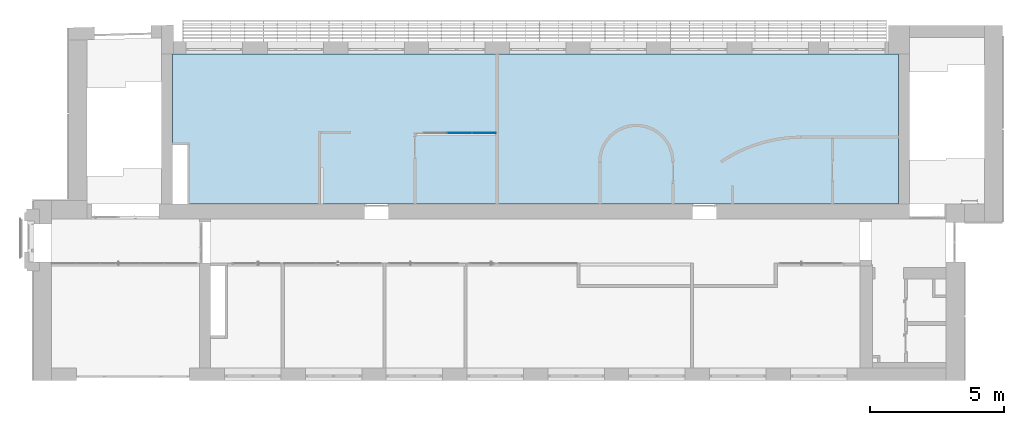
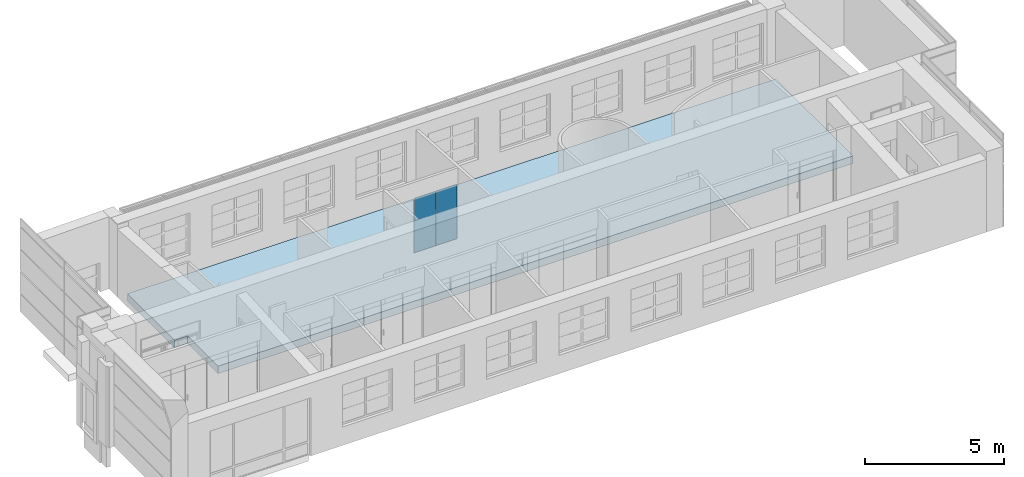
# One storey, part 17 of 46: 2 plates, 1 slab, 1 element without a shape of its own.
"""IFC2X3 building model written with IfcOpenShell, lengths in millimetres."""

from ifc_helpers import new_model, entity, si_unit, converted_unit, derived_unit, direction, frame, origin, origin_2d_with_axis, place, context, subcontext, project, spatial, polyline, rectangle, outline, extrude, source, transform, mapped, material, layer, layer_set, layer_usage, type_object, type_shapes, element, aggregate, save


model = new_model("IFC2X3")

# Units and contexts
model_context = context("Model", 3, precision=0.01, world=origin(), true_north=direction((6.12303176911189e-17, 1.0)))
body_context = subcontext(model_context, "Body", "Model", "MODEL_VIEW")
ifc_project = project(units=[si_unit("LENGTHUNIT", "METRE", prefix="MILLI"), si_unit("AREAUNIT", "SQUARE_METRE"), si_unit("VOLUMEUNIT", "CUBIC_METRE"), converted_unit("PLANEANGLEUNIT", "DEGREE", entity("IfcRatioMeasure", 0.0174532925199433), si_unit("PLANEANGLEUNIT", "RADIAN"), dimensions=[0, 0, 0, 0, 0, 0, 0]), si_unit("MASSUNIT", "GRAM", prefix="KILO"), derived_unit("MASSDENSITYUNIT", [(si_unit("MASSUNIT", "GRAM", prefix="KILO"), 1), (si_unit("LENGTHUNIT", "METRE"), -3)]), si_unit("TIMEUNIT", "SECOND"), si_unit("FREQUENCYUNIT", "HERTZ"), si_unit("THERMODYNAMICTEMPERATUREUNIT", "DEGREE_CELSIUS"), derived_unit("THERMALTRANSMITTANCEUNIT", [(si_unit("MASSUNIT", "GRAM", prefix="KILO"), 1), (si_unit("THERMODYNAMICTEMPERATUREUNIT", "KELVIN"), -1), (si_unit("TIMEUNIT", "SECOND"), -3)]), derived_unit("VOLUMETRICFLOWRATEUNIT", [(si_unit("LENGTHUNIT", "METRE"), 3), (si_unit("TIMEUNIT", "SECOND"), -1)]), si_unit("ELECTRICCURRENTUNIT", "AMPERE"), si_unit("ELECTRICVOLTAGEUNIT", "VOLT"), si_unit("POWERUNIT", "WATT"), si_unit("FORCEUNIT", "NEWTON", prefix="KILO"), si_unit("ILLUMINANCEUNIT", "LUX"), si_unit("LUMINOUSFLUXUNIT", "LUMEN"), si_unit("LUMINOUSINTENSITYUNIT", "CANDELA"), derived_unit("USERDEFINED", [(si_unit("MASSUNIT", "GRAM", prefix="KILO"), -1), (si_unit("LENGTHUNIT", "METRE"), -2), (si_unit("TIMEUNIT", "SECOND"), 3), (si_unit("LUMINOUSFLUXUNIT", "LUMEN"), 1)]), derived_unit("LINEARVELOCITYUNIT", [(si_unit("LENGTHUNIT", "METRE"), 1), (si_unit("TIMEUNIT", "SECOND"), -1)]), si_unit("PRESSUREUNIT", "PASCAL"), derived_unit("USERDEFINED", [(si_unit("LENGTHUNIT", "METRE"), -2), (si_unit("MASSUNIT", "GRAM", prefix="KILO"), 1), (si_unit("TIMEUNIT", "SECOND"), -2)])], contexts=[model_context])

# Site, building, storey
site_placement = place(None, frame((-151.875543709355, 2715.0, 0.0)))
site = spatial("IfcSite", under=ifc_project, at=site_placement, Name="Surface", CompositionType="ELEMENT")
building_placement = place(site_placement, origin())
building = spatial("IfcBuilding", under=site, at=building_placement, CompositionType="ELEMENT")
storey_placement = place(building_placement, frame((0.0, 0.0, 10060.0)))
storey = spatial("IfcBuildingStorey", under=building, at=storey_placement, Name="4 korrus", CompositionType="ELEMENT", Elevation=10060.0000000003)

# Curtain wall, plates
curtain_wall_type = type_object("IfcCurtainWallType", Name="Curtain Wall:Klaassein KLS-28", PredefinedType="NOTDEFINED")
curtain_wall_placement = place(storey_placement, frame((0.0, 0.0, -10060.0)))
curtain_wall = element("IfcCurtainWall", 1, at=curtain_wall_placement, inside=storey, type_object=curtain_wall_type, Name="Curtain Wall:Klaassein KLS-28", ObjectType="Curtain Wall:Klaassein KLS-28")
ifc_material_1 = material(Name="<Unnamed>")
ifc_layer_1 = layer(ifc_material_1, 20.0)
ifc_layer_set_1 = layer_set([ifc_layer_1], Name="Curtain Wall:Klaassein KLS-01")
ifc_layer_usage_1 = layer_usage(ifc_layer_set_1, "AXIS3", "POSITIVE", 0.0)
plate_type = type_object("IfcPlateType", Name="Glazed", PredefinedType="CURTAIN_PANEL", material=ifc_layer_set_1)
shared_shape = source(origin(), body_context, "Body", "SweptSolid", [
    extrude(rectangle(XDim=20.0, YDim=880.000000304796, at=origin_2d_with_axis()), frame((0.0, 0.0, 0.0), z_axis=(0.0, 0.0, 1.0), x_axis=(0.0, 1.0, 0.0)), (0.0, 0.0, 1.0), 2400.0),
])
type_shapes(plate_type, [shared_shape])
plate_1_placement = place(curtain_wall_placement, frame((16543.8493552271, 9210.00115708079, 10060.0), z_axis=(0.0, 0.0, 1.0), x_axis=(-1.0, 0.0, 0.0)))
plate_1 = element("IfcPlate", 2, at=plate_1_placement, type_object=plate_type, material=ifc_layer_usage_1, Name="System Panel:Glazed", ObjectType="Glazed", context=body_context, shape_type="MappedRepresentation", body=[
    mapped(shared_shape, transform((0.0, 0.0, 0.0), scale=1.0)),
])
ifc_layer_usage_2 = layer_usage(ifc_layer_set_1, "AXIS3", "POSITIVE", 0.0)
plate_2_placement = place(curtain_wall_placement, frame((15643.8493550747, 9210.00115708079, 10060.0), z_axis=(0.0, 0.0, 1.0), x_axis=(-1.0, 0.0, 0.0)))
plate_2 = element("IfcPlate", 3, at=plate_2_placement, type_object=plate_type, material=ifc_layer_usage_2, Name="System Panel:Glazed", ObjectType="Glazed", context=body_context, shape_type="MappedRepresentation", body=[
    mapped(shared_shape, transform((0.0, 0.0, 0.0), scale=1.0)),
])
aggregate(curtain_wall, [plate_1, plate_2])

# Slab
ifc_material_2 = material(Name="Viimistlus")
ifc_layer_2 = layer(ifc_material_2, 20.0)
ifc_material_3 = material(Name="Betoon")
ifc_layer_3 = layer(ifc_material_3, 30.0)
ifc_material_4 = material(Name="Helisummutusvill")
ifc_layer_4 = layer(ifc_material_4, 30.0)
ifc_material_5 = material(Name="__Kergkruus")
ifc_layer_5 = layer(ifc_material_5, 30.0)
ifc_material_6 = material(Name="Betoon paneel")
ifc_layer_6 = layer(ifc_material_6, 220.0)
ifc_layer_set_2 = layer_set([ifc_layer_2, ifc_layer_3, ifc_layer_4, ifc_layer_5, ifc_layer_6], Name="Floor:VL-1_vahelagi olemasolevas hoones")
ifc_layer_usage_3 = layer_usage(ifc_layer_set_2, "AXIS3", "POSITIVE", 0.0)
slab_placement = place(storey_placement, origin())
element("IfcSlab", 4, at=slab_placement, inside=storey, material=ifc_layer_usage_3, Name="Floor:VL-1_vahelagi olemasolevas hoones", ObjectType="Floor:VL-1_vahelagi olemasolevas hoones", PredefinedType="FLOOR", context=body_context, shape_type="SweptSolid", body=[
    extrude(outline(polyline([(-396.666666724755, -9187.2111415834), (2993.33333327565, -9187.2111415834), (2993.33333344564, 17824.5321971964), (-2596.66666655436, 17824.5321972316), (-2596.66666672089, -8637.32105562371), (-396.666666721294, -8637.32105563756), (-396.666666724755, -9187.2111415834)])), frame((14148.0840709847, 9156.66666666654, 0.0), z_axis=(0.0, 0.0, -1.0), x_axis=(0.0, 1.0, 0.0)), (0.0, 0.0, 1.0), 330.0),
])

save(model, "model.ifc")
